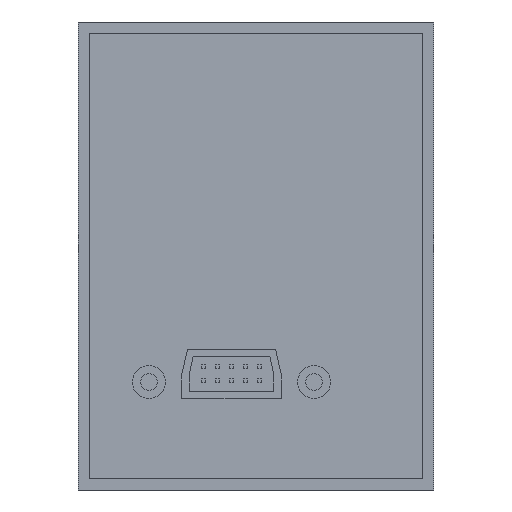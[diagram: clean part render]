
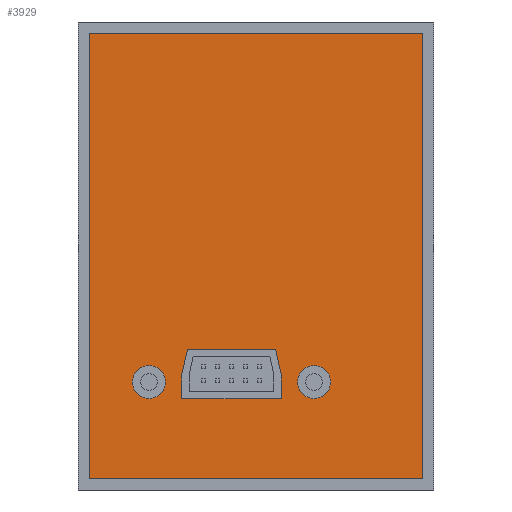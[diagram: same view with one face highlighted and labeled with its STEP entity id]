
A CAD part, front view. The second image highlights one B-rep face of the part: STEP entity #3929.
In plain terms, the highlighted planar face has unit normal (0, -1, 0).
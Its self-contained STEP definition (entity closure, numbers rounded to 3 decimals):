
#48 = ORIENTED_EDGE ( 'NONE', *, *, #621, .F. ) ;
#63 = CARTESIAN_POINT ( 'NONE',  ( 4.552, 0., -68.399 ) ) ;
#104 = VERTEX_POINT ( 'NONE', #2339 ) ;
#130 = EDGE_CURVE ( 'NONE', #2745, #743, #3920, .T. ) ;
#279 = CARTESIAN_POINT ( 'NONE',  ( -19.45, 0., -65.4 ) ) ;
#292 = ORIENTED_EDGE ( 'NONE', *, *, #975, .F. ) ;
#305 = CIRCLE ( 'NONE', #3977, 3. ) ;
#425 = EDGE_CURVE ( 'NONE', #726, #104, #3509, .T. ) ;
#470 = EDGE_CURVE ( 'NONE', #2998, #1314, #3367, .T. ) ;
#489 = CIRCLE ( 'NONE', #1557, 3. ) ;
#500 = ORIENTED_EDGE ( 'NONE', *, *, #747, .F. ) ;
#505 = CARTESIAN_POINT ( 'NONE',  ( 3.552, 0., -59.396 ) ) ;
#574 = CIRCLE ( 'NONE', #690, 3. ) ;
#620 = DIRECTION ( 'NONE',  ( 0., 0., -1. ) ) ;
#621 = EDGE_CURVE ( 'NONE', #3551, #944, #3081, .T. ) ;
#657 = CARTESIAN_POINT ( 'NONE',  ( -30.25, 0., -85. ) ) ;
#690 = AXIS2_PLACEMENT_3D ( 'NONE', #279, #2574, #620 ) ;
#725 = DIRECTION ( 'NONE',  ( 0., 0., -1. ) ) ;
#726 = VERTEX_POINT ( 'NONE', #2520 ) ;
#731 = CARTESIAN_POINT ( 'NONE',  ( 10.55, 0., -68.4 ) ) ;
#743 = VERTEX_POINT ( 'NONE', #3211 ) ;
#747 = EDGE_CURVE ( 'NONE', #1314, #2259, #2698, .T. ) ;
#750 = DIRECTION ( 'NONE',  ( 0., -1., 0. ) ) ;
#786 = ORIENTED_EDGE ( 'NONE', *, *, #130, .F. ) ;
#874 = CARTESIAN_POINT ( 'NONE',  ( -12.448, 0., -59.396 ) ) ;
#929 = VERTEX_POINT ( 'NONE', #63 ) ;
#944 = VERTEX_POINT ( 'NONE', #1345 ) ;
#975 = EDGE_CURVE ( 'NONE', #3086, #2663, #2117, .T. ) ;
#1029 = LINE ( 'NONE', #2041, #1065 ) ;
#1033 = CARTESIAN_POINT ( 'NONE',  ( -13.448, 0., -63.899 ) ) ;
#1046 = CARTESIAN_POINT ( 'NONE',  ( 4.552, 0., -63.899 ) ) ;
#1065 = VECTOR ( 'NONE', #3117, 1000. ) ;
#1116 = DIRECTION ( 'NONE',  ( 0., -1., 0. ) ) ;
#1167 = DIRECTION ( 'NONE',  ( 0., 0., 1. ) ) ;
#1314 = VERTEX_POINT ( 'NONE', #505 ) ;
#1343 = EDGE_LOOP ( 'NONE', ( #3074, #48 ) ) ;
#1345 = CARTESIAN_POINT ( 'NONE',  ( 10.55, 0., -62.4 ) ) ;
#1351 = FACE_BOUND ( 'NONE', #1343, .T. ) ;
#1358 = FACE_BOUND ( 'NONE', #2197, .T. ) ;
#1375 = DIRECTION ( 'NONE',  ( -0.217, 0., 0.976 ) ) ;
#1512 = DIRECTION ( 'NONE',  ( -1., 0., 0. ) ) ;
#1557 = AXIS2_PLACEMENT_3D ( 'NONE', #3876, #1897, #4212 ) ;
#1609 = ORIENTED_EDGE ( 'NONE', *, *, #470, .F. ) ;
#1657 = CARTESIAN_POINT ( 'NONE',  ( 30.25, 0., -2. ) ) ;
#1704 = CARTESIAN_POINT ( 'NONE',  ( -30.25, 0., -2. ) ) ;
#1715 = LINE ( 'NONE', #3187, #1753 ) ;
#1732 = EDGE_CURVE ( 'NONE', #743, #929, #1029, .T. ) ;
#1753 = VECTOR ( 'NONE', #1167, 1000. ) ;
#1897 = DIRECTION ( 'NONE',  ( 0., -1., 0. ) ) ;
#1963 = EDGE_CURVE ( 'NONE', #944, #3551, #489, .T. ) ;
#2005 = PLANE ( 'NONE',  #2426 ) ;
#2014 = DIRECTION ( 'NONE',  ( 1., 0., 0. ) ) ;
#2018 = EDGE_CURVE ( 'NONE', #4170, #3544, #305, .T. ) ;
#2041 = CARTESIAN_POINT ( 'NONE',  ( -13.448, 0., -68.399 ) ) ;
#2117 = LINE ( 'NONE', #1704, #2130 ) ;
#2130 = VECTOR ( 'NONE', #2014, 1000. ) ;
#2165 = ORIENTED_EDGE ( 'NONE', *, *, #3212, .F. ) ;
#2184 = ORIENTED_EDGE ( 'NONE', *, *, #1732, .F. ) ;
#2197 = EDGE_LOOP ( 'NONE', ( #500, #1609, #2165, #2184, #786, #3091 ) ) ;
#2259 = VERTEX_POINT ( 'NONE', #2894 ) ;
#2260 = ORIENTED_EDGE ( 'NONE', *, *, #2018, .F. ) ;
#2278 = DIRECTION ( 'NONE',  ( 0., 0., 1. ) ) ;
#2339 = CARTESIAN_POINT ( 'NONE',  ( -30.25, 0., -83. ) ) ;
#2346 = CARTESIAN_POINT ( 'NONE',  ( -19.45, 0., -68.4 ) ) ;
#2392 = CARTESIAN_POINT ( 'NONE',  ( -30.25, 0., -2. ) ) ;
#2393 = CARTESIAN_POINT ( 'NONE',  ( -13.448, 0., -63.899 ) ) ;
#2426 = AXIS2_PLACEMENT_3D ( 'NONE', #3986, #3380, #2742 ) ;
#2474 = EDGE_CURVE ( 'NONE', #3544, #4170, #574, .T. ) ;
#2520 = CARTESIAN_POINT ( 'NONE',  ( 30.25, 0., -83. ) ) ;
#2574 = DIRECTION ( 'NONE',  ( 0., -1., 0. ) ) ;
#2598 = LINE ( 'NONE', #2898, #2645 ) ;
#2600 = ORIENTED_EDGE ( 'NONE', *, *, #3409, .F. ) ;
#2645 = VECTOR ( 'NONE', #3225, 1000. ) ;
#2647 = LINE ( 'NONE', #3927, #3975 ) ;
#2655 = VECTOR ( 'NONE', #1512, 1000. ) ;
#2663 = VERTEX_POINT ( 'NONE', #1657 ) ;
#2698 = LINE ( 'NONE', #874, #2655 ) ;
#2742 = DIRECTION ( 'NONE',  ( 0., 0., -1. ) ) ;
#2745 = VERTEX_POINT ( 'NONE', #2393 ) ;
#2752 = CARTESIAN_POINT ( 'NONE',  ( -19.45, 0., -65.4 ) ) ;
#2762 = AXIS2_PLACEMENT_3D ( 'NONE', #3134, #1116, #3437 ) ;
#2826 = ORIENTED_EDGE ( 'NONE', *, *, #425, .F. ) ;
#2855 = EDGE_CURVE ( 'NONE', #726, #2663, #1715, .T. ) ;
#2894 = CARTESIAN_POINT ( 'NONE',  ( -12.448, 0., -59.396 ) ) ;
#2895 = CARTESIAN_POINT ( 'NONE',  ( 4.552, 0., -63.899 ) ) ;
#2898 = CARTESIAN_POINT ( 'NONE',  ( 4.552, 0., -68.399 ) ) ;
#2998 = VERTEX_POINT ( 'NONE', #2895 ) ;
#3057 = DIRECTION ( 'NONE',  ( -1., 0., 0. ) ) ;
#3074 = ORIENTED_EDGE ( 'NONE', *, *, #1963, .F. ) ;
#3081 = CIRCLE ( 'NONE', #2762, 3. ) ;
#3086 = VERTEX_POINT ( 'NONE', #2392 ) ;
#3091 = ORIENTED_EDGE ( 'NONE', *, *, #3753, .F. ) ;
#3093 = DIRECTION ( 'NONE',  ( 0., 0., -1. ) ) ;
#3117 = DIRECTION ( 'NONE',  ( 1., 0., 0. ) ) ;
#3123 = VECTOR ( 'NONE', #2278, 1000. ) ;
#3134 = CARTESIAN_POINT ( 'NONE',  ( 10.55, 0., -65.4 ) ) ;
#3187 = CARTESIAN_POINT ( 'NONE',  ( 30.25, 0., -85. ) ) ;
#3211 = CARTESIAN_POINT ( 'NONE',  ( -13.448, 0., -68.399 ) ) ;
#3212 = EDGE_CURVE ( 'NONE', #929, #2998, #2598, .T. ) ;
#3225 = DIRECTION ( 'NONE',  ( 0., 0., 1. ) ) ;
#3320 = ORIENTED_EDGE ( 'NONE', *, *, #2855, .T. ) ;
#3337 = VECTOR ( 'NONE', #1375, 1000. ) ;
#3367 = LINE ( 'NONE', #1046, #3337 ) ;
#3380 = DIRECTION ( 'NONE',  ( 0., -1., 0. ) ) ;
#3409 = EDGE_CURVE ( 'NONE', #104, #3086, #4259, .T. ) ;
#3437 = DIRECTION ( 'NONE',  ( 0., 0., -1. ) ) ;
#3470 = VECTOR ( 'NONE', #3057, 1000. ) ;
#3499 = EDGE_LOOP ( 'NONE', ( #2826, #3320, #292, #2600 ) ) ;
#3504 = ORIENTED_EDGE ( 'NONE', *, *, #2474, .F. ) ;
#3509 = LINE ( 'NONE', #3974, #3470 ) ;
#3544 = VERTEX_POINT ( 'NONE', #2346 ) ;
#3551 = VERTEX_POINT ( 'NONE', #731 ) ;
#3615 = DIRECTION ( 'NONE',  ( -0.217, 0., -0.976 ) ) ;
#3753 = EDGE_CURVE ( 'NONE', #2259, #2745, #2647, .T. ) ;
#3777 = FACE_OUTER_BOUND ( 'NONE', #3499, .T. ) ;
#3834 = FACE_BOUND ( 'NONE', #4273, .T. ) ;
#3876 = CARTESIAN_POINT ( 'NONE',  ( 10.55, 0., -65.4 ) ) ;
#3887 = CARTESIAN_POINT ( 'NONE',  ( -19.45, 0., -62.4 ) ) ;
#3905 = VECTOR ( 'NONE', #725, 1000. ) ;
#3920 = LINE ( 'NONE', #1033, #3905 ) ;
#3927 = CARTESIAN_POINT ( 'NONE',  ( -12.448, 0., -59.396 ) ) ;
#3929 = ADVANCED_FACE ( 'NONE', ( #3777, #1351, #3834, #1358 ), #2005, .T. ) ;
#3974 = CARTESIAN_POINT ( 'NONE',  ( -30.25, 0., -83. ) ) ;
#3975 = VECTOR ( 'NONE', #3615, 1000. ) ;
#3977 = AXIS2_PLACEMENT_3D ( 'NONE', #2752, #750, #3093 ) ;
#3986 = CARTESIAN_POINT ( 'NONE',  ( -30.25, 0., -85. ) ) ;
#4170 = VERTEX_POINT ( 'NONE', #3887 ) ;
#4212 = DIRECTION ( 'NONE',  ( 0., 0., -1. ) ) ;
#4259 = LINE ( 'NONE', #657, #3123 ) ;
#4273 = EDGE_LOOP ( 'NONE', ( #2260, #3504 ) ) ;
